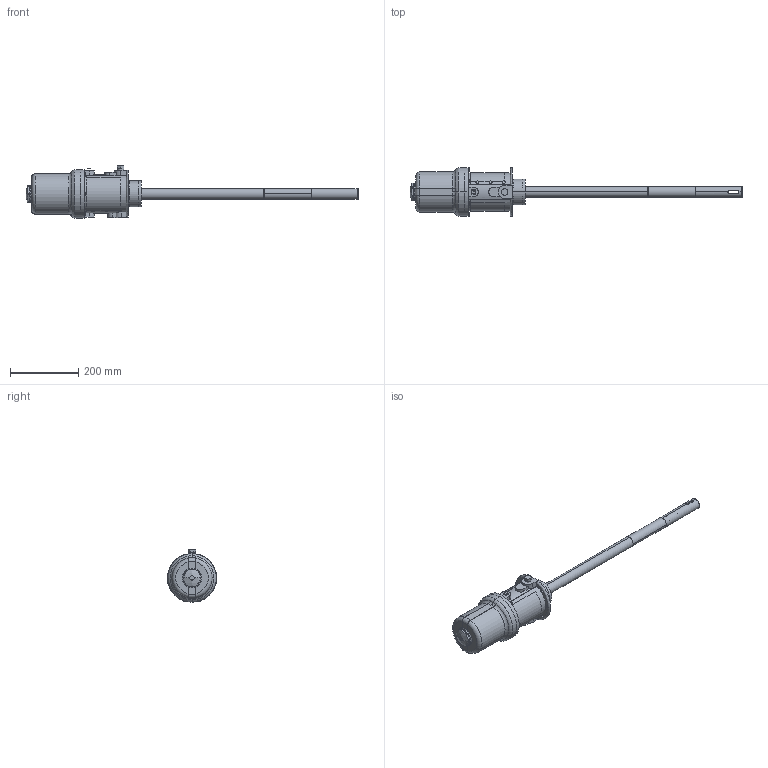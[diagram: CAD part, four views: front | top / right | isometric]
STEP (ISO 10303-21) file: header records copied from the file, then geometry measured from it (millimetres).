
FILE_DESCRIPTION((''),'2;1');
FILE_NAME('239887-EN-ZAB_PRT','2024-05-23T11:50:57',('qtmwp1'),(''),'CREO PARAMETRIC BY PTC INC, 2023424','CREO PARAMETRIC BY PTC INC, 2023424','');
FILE_SCHEMA(('CONFIG_CONTROL_DESIGN'));
Length unit declared in the file: inch
Products named in the file (1): 239887-EN-ZAB_PRT
Bounding box: 970.58 x 143.76 x 152.91 mm (x, y, z)
Surface area: 280885.1 mm2 (no closed solid volume)
Topology: 0 solids, 34 shells, 229 faces, 722 edges, 503 vertices
Faces by surface type: plane 91, cylinder 71, cone 47, torus 14, bspline 6
Entity records: 8922 total; most frequent: CARTESIAN_POINT 2917, DIRECTION 1194, ORIENTED_EDGE 1151, EDGE_CURVE 722, VERTEX_POINT 503, AXIS2_PLACEMENT_3D 461, VECTOR 272, LINE 272
